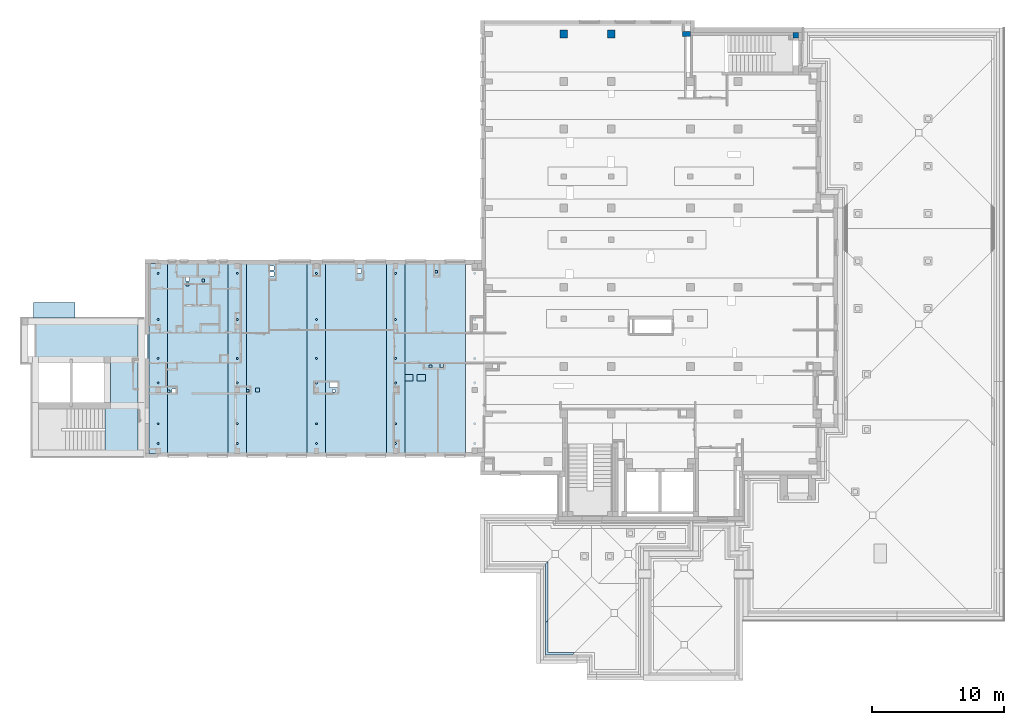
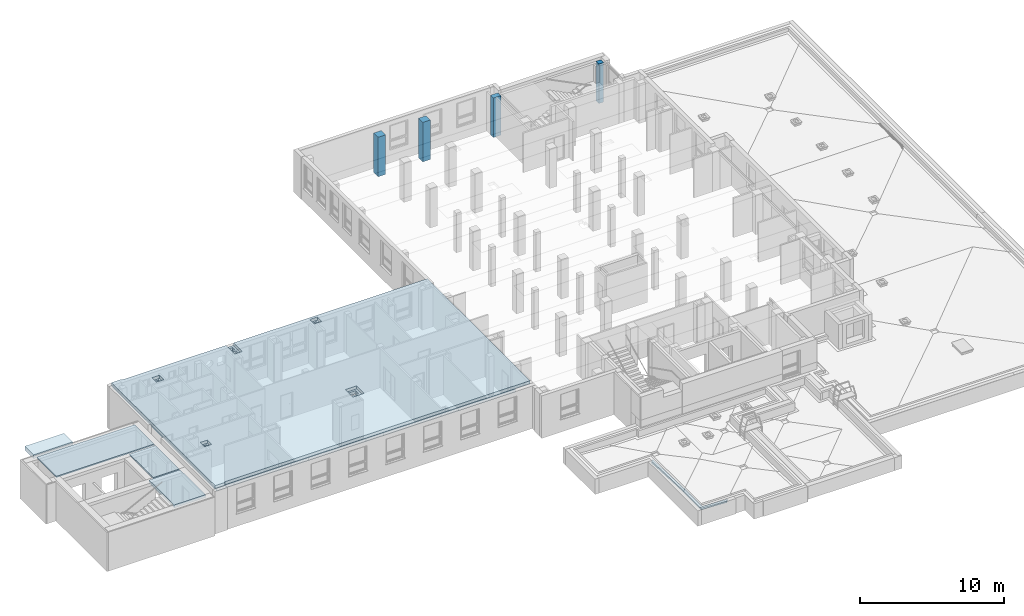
# One storey, part 2 of 50: 15 slabs, 4 columns, 44 openings, 1 element without a shape of its own.
"""IFC4 building model written with IfcOpenShell, lengths in metres."""

from ifc_helpers import new_model, entity, si_unit, converted_unit, derived_unit, frame, frame_2d, origin, origin_with_axes, origin_2d_with_axis, place, context, subcontext, project, spatial, polyline, rectangle, circle, outline, extrude, material, layer, layer_set, layer_usage, element, aggregate, save


model = new_model("IFC4")

# Units and contexts
model_context = context("Model", 3, precision=1e-05, world=origin())
body_context = subcontext(model_context, "Body", "Model", "MODEL_VIEW")
ifc_project = project(units=[si_unit("LENGTHUNIT", "METRE"), si_unit("AREAUNIT", "SQUARE_METRE"), si_unit("VOLUMEUNIT", "CUBIC_METRE"), si_unit("MASSUNIT", "GRAM", prefix="KILO"), converted_unit("PLANEANGLEUNIT", "DEGREE", entity("IfcPlaneAngleMeasure", 0.0174532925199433), si_unit("PLANEANGLEUNIT", "RADIAN"), dimensions=[0, 0, 0, 0, 0, 0, 0]), derived_unit("THERMALTRANSMITTANCEUNIT", [(si_unit("POWERUNIT", "WATT"), 1), (si_unit("THERMODYNAMICTEMPERATUREUNIT", "KELVIN"), -1), (si_unit("LENGTHUNIT", "METRE"), -2)]), derived_unit("VOLUMETRICFLOWRATEUNIT", [(si_unit("LENGTHUNIT", "METRE"), 3), (converted_unit("TIMEUNIT", "hour", entity("IfcTimeMeasure", 3600.0), si_unit("TIMEUNIT", "SECOND"), dimensions=[0, 0, 1, 0, 0, 0, 0]), -1), (si_unit("LENGTHUNIT", "METRE"), -1)])], contexts=[model_context])

# Site, building, storey
site_placement = place(None, origin())
site = spatial("IfcSite", under=ifc_project, at=site_placement, Name="3. ASŘ", CompositionType="ELEMENT")
building_placement = place(site_placement, origin())
building = spatial("IfcBuilding", under=site, at=building_placement, Name="Pavilon C", CompositionType="ELEMENT")
storey_placement = place(building_placement, frame((0.0, 0.0, 3.6)))
storey = spatial("IfcBuildingStorey", under=building, at=storey_placement, Name="Půdorys 2.NP", CompositionType="ELEMENT", Elevation=3.6)

# Columns
ifc_material_1 = material(Name="ZELEZOBETONOVÁ KCE")
column_1_placement = place(storey_placement, frame((31.05, 32.7, -0.1)))
element("IfcColumn", 1, at=column_1_placement, inside=storey, material=ifc_material_1, PredefinedType="COLUMN", context=body_context, shape_type="SweptSolid", body=[
    extrude(rectangle(XDim=0.6, YDim=0.6, at=frame_2d((-0.3, -0.3), x_axis=(-1.0, 0.0))), origin_with_axes(), (0.0, 0.0, 1.0), 3.35),
])
ifc_material_2 = material(Name="ZELEZOBETONOVÁ KCE")
column_2_placement = place(storey_placement, frame((34.65, 32.7, -0.1)))
element("IfcColumn", 2, at=column_2_placement, inside=storey, material=ifc_material_2, PredefinedType="COLUMN", context=body_context, shape_type="SweptSolid", body=[
    extrude(rectangle(XDim=0.6, YDim=0.6, at=frame_2d((-0.3, -0.3), x_axis=(-1.0, 0.0))), origin_with_axes(), (0.0, 0.0, 1.0), 3.35),
])
ifc_material_3 = material(Name="ZELEZOBETONOVÁ KCE")
column_3_placement = place(storey_placement, frame((40.35, 32.6, -0.1)))
element("IfcColumn", 3, at=column_3_placement, inside=storey, material=ifc_material_3, PredefinedType="COLUMN", context=body_context, shape_type="SweptSolid", body=[
    extrude(rectangle(XDim=0.599999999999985, YDim=0.4, at=frame_2d((-0.299999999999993, -0.2), x_axis=(-1.0, 0.0))), origin_with_axes(), (0.0, 0.0, 1.0), 3.35),
])
ifc_material_4 = material(Name="ZELEZOBETONOVÁ KCE")
column_4_placement = place(storey_placement, frame((48.55, 32.5, -0.1)))
element("IfcColumn", 4, at=column_4_placement, inside=storey, material=ifc_material_4, PredefinedType="COLUMN", context=body_context, shape_type="SweptSolid", body=[
    extrude(rectangle(XDim=0.4, YDim=0.4, at=frame_2d((-0.2, -0.2), x_axis=(-1.0, 0.0))), origin_with_axes(), (0.0, 0.0, 1.0), 3.35),
])

# Slab, openings
ifc_material_5 = material(Name="PZD")
slab_1_placement = place(storey_placement, frame((0.700000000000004, 0.600000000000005, 3.25)))
slab_1 = element("IfcSlab", 5, at=slab_1_placement, inside=storey, material=ifc_material_5, PredefinedType="FLOOR", context=body_context, shape_type="SweptSolid", body=[
    extrude(rectangle(XDim=14.4, YDim=4.60000000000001, at=frame_2d((2.3, -7.2), x_axis=(-1.01054966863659e-15, -1.0))), frame((1.45519152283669e-14, 14.4, 0.0), z_axis=(0.0, 0.0, 1.0), x_axis=(1.0, 0.0, 0.0)), (0.0, 0.0, 1.0), 0.25),
])
opening_1_placement = place(slab_1_placement, frame((1.37500000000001, 13.055, 0.0)))
element("IfcOpeningElement", 6, at=opening_1_placement, cuts=slab_1, Name="Prostup deskou", ObjectType="Opening", context=body_context, shape_type="SweptSolid", body=[
    extrude(rectangle(XDim=0.3, YDim=0.3, at=frame_2d((0.0, 0.0), x_axis=(0.0, -1.0))), frame((0.15, 0.15, 0.0), z_axis=(0.0, 0.0, 1.0), x_axis=(1.0, 0.0, 0.0)), (0.0, 0.0, 1.0), 0.25),
])
opening_2_placement = place(slab_1_placement, frame((0.350000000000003, 4.6, 0.0)))
element("IfcOpeningElement", 7, at=opening_2_placement, cuts=slab_1, Name="Prostup deskou", ObjectType="Opening", context=body_context, shape_type="SweptSolid", body=[
    extrude(rectangle(XDim=0.3, YDim=0.3, at=frame_2d((0.0, 9.09494701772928e-16), x_axis=(0.0, -1.0))), frame((0.15, 0.149999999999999, 0.0), z_axis=(0.0, 0.0, 1.0), x_axis=(1.0, 0.0, 0.0)), (0.0, 0.0, 1.0), 0.25),
])
opening_3_placement = place(slab_1_placement, frame((2.38742359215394e-15, 4.6, 0.0)))
element("IfcOpeningElement", 8, at=opening_3_placement, cuts=slab_1, Name="Prostup deskou", ObjectType="Opening", context=body_context, shape_type="SweptSolid", body=[
    extrude(rectangle(XDim=0.2, YDim=0.2, at=frame_2d((-1.13686837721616e-16, 9.09494701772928e-16), x_axis=(0.0, -1.0))), frame((0.1, 0.0999999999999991, 0.0), z_axis=(0.0, 0.0, 1.0), x_axis=(1.0, 0.0, 0.0)), (0.0, 0.0, 1.0), 0.25),
])
opening_4_placement = place(slab_1_placement, frame((2.62500000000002, 13.005, 0.0)))
element("IfcOpeningElement", 9, at=opening_4_placement, cuts=slab_1, Name="Prostup deskou", ObjectType="Opening", context=body_context, shape_type="SweptSolid", body=[
    extrude(rectangle(XDim=0.2, YDim=0.2, at=frame_2d((0.0, 0.0), x_axis=(0.0, -1.0))), frame((0.1, 0.1, 0.0), z_axis=(0.0, 0.0, 1.0), x_axis=(1.0, 0.0, 0.0)), (0.0, 0.0, 1.0), 0.25),
])
opening_5_placement = place(slab_1_placement, frame((1.42500000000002, 12.705, 0.0)))
element("IfcOpeningElement", 10, at=opening_5_placement, cuts=slab_1, Name="Prostup deskou", ObjectType="Opening", context=body_context, shape_type="SweptSolid", body=[
    extrude(rectangle(XDim=0.2, YDim=0.2, at=frame_2d((0.0, 0.0), x_axis=(0.0, -1.0))), frame((0.1, 0.1, 0.0), z_axis=(0.0, 0.0, 1.0), x_axis=(1.0, 0.0, 0.0)), (0.0, 0.0, 1.0), 0.25),
])

ifc_material_6 = material(Name="RZT")
slab_2_placement = place(storey_placement, frame((11.3, 0.600000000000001, 3.25)))
slab_2 = element("IfcSlab", 11, at=slab_2_placement, inside=storey, material=ifc_material_6, PredefinedType="FLOOR", context=body_context, shape_type="SweptSolid", body=[
    extrude(rectangle(XDim=1.4, YDim=14.4, at=frame_2d((0.700000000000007, 7.2), x_axis=(1.0, 0.0))), origin_with_axes(), (0.0, 0.0, 1.0), 0.25),
])
opening_6_placement = place(slab_2_placement, frame((0.62507717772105, 0.675077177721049, 0.0)))
element("IfcOpeningElement", 12, at=opening_6_placement, cuts=slab_2, Name="Prostup deskou", ObjectType="Opening", context=body_context, shape_type="SweptSolid", body=[
    extrude(circle(Radius=0.075, at=frame_2d((0.0, -4.54747350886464e-16), x_axis=(1.0, 0.0))), frame((0.0749228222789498, 0.0749228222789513, 0.0), z_axis=(0.0, 0.0, 1.0), x_axis=(1.0, 0.0, 0.0)), (0.0, 0.0, 1.0), 0.25),
])
opening_7_placement = place(slab_2_placement, frame((0.62507717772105, 2.17507717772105, 0.0)))
element("IfcOpeningElement", 13, at=opening_7_placement, cuts=slab_2, Name="Prostup deskou", ObjectType="Opening", context=body_context, shape_type="SweptSolid", body=[
    extrude(circle(Radius=0.0749999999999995, at=origin_2d_with_axis()), frame((0.0749228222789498, 0.0749228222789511, 0.0), z_axis=(0.0, 0.0, 1.0), x_axis=(1.0, 0.0, 0.0)), (0.0, 0.0, 1.0), 0.25),
])
opening_8_placement = place(slab_2_placement, frame((0.625077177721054, 10.0750771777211, 0.0)))
element("IfcOpeningElement", 14, at=opening_8_placement, cuts=slab_2, Name="Prostup deskou", ObjectType="Opening", context=body_context, shape_type="SweptSolid", body=[
    extrude(circle(Radius=0.0750000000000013, at=frame_2d((3.63797880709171e-15, -1.81898940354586e-15), x_axis=(1.0, 0.0))), frame((0.0749228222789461, 0.0749228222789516, 0.0), z_axis=(0.0, 0.0, 1.0), x_axis=(1.0, 0.0, 0.0)), (0.0, 0.0, 1.0), 0.25),
])
opening_9_placement = place(slab_2_placement, frame((0.625077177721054, 13.575077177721, 0.0)))
element("IfcOpeningElement", 15, at=opening_9_placement, cuts=slab_2, Name="Prostup deskou", ObjectType="Opening", context=body_context, shape_type="SweptSolid", body=[
    extrude(circle(Radius=0.0750000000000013, at=frame_2d((5.45696821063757e-15, 5.45696821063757e-15), x_axis=(1.0, 0.0))), frame((0.0749228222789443, 0.0749228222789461, 0.0), z_axis=(0.0, 0.0, 1.0), x_axis=(1.0, 0.0, 0.0)), (0.0, 0.0, 1.0), 0.25),
])
opening_10_placement = place(slab_2_placement, frame((0.62507717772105, 5.27507717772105, 0.0)))
element("IfcOpeningElement", 16, at=opening_10_placement, cuts=slab_2, Name="Prostup deskou", ObjectType="Opening", context=body_context, shape_type="SweptSolid", body=[
    extrude(circle(Radius=0.0750000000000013, at=frame_2d((0.0, 4.54747350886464e-15), x_axis=(1.0, 0.0))), frame((0.0749228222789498, 0.0749228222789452, 0.0), z_axis=(0.0, 0.0, 1.0), x_axis=(1.0, 0.0, 0.0)), (0.0, 0.0, 1.0), 0.25),
])
opening_11_placement = place(slab_2_placement, frame((0.62507717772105, 7.12507717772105, 0.0)))
element("IfcOpeningElement", 17, at=opening_11_placement, cuts=slab_2, Name="Prostup deskou", ObjectType="Opening", context=body_context, shape_type="SweptSolid", body=[
    extrude(circle(Radius=0.0750000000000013, at=origin_2d_with_axis()), frame((0.0749228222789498, 0.0749228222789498, 0.0), z_axis=(0.0, 0.0, 1.0), x_axis=(1.0, 0.0, 0.0)), (0.0, 0.0, 1.0), 0.25),
])

ifc_material_7 = material(Name="RZT")
slab_3_placement = place(storey_placement, frame((-0.699999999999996, 0.600000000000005, 3.25)))
slab_3 = element("IfcSlab", 18, at=slab_3_placement, inside=storey, material=ifc_material_7, PredefinedType="FLOOR", context=body_context, shape_type="SweptSolid", body=[
    extrude(rectangle(XDim=1.4, YDim=14.4, at=frame_2d((0.700000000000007, 7.2), x_axis=(1.0, 0.0))), origin_with_axes(), (0.0, 0.0, 1.0), 0.25),
])
opening_12_placement = place(slab_3_placement, frame((0.62507717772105, 7.12507717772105, 0.0)))
element("IfcOpeningElement", 19, at=opening_12_placement, cuts=slab_3, Name="Prostup deskou", ObjectType="Opening", context=body_context, shape_type="SweptSolid", body=[
    extrude(circle(Radius=0.0750000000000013, at=frame_2d((0.0, -9.09494701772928e-16), x_axis=(1.0, 0.0))), frame((0.0749228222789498, 0.0749228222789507, 0.0), z_axis=(0.0, 0.0, 1.0), x_axis=(1.0, 0.0, 0.0)), (0.0, 0.0, 1.0), 0.25),
])
opening_13_placement = place(slab_3_placement, frame((0.62507717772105, 5.27507717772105, 0.0)))
element("IfcOpeningElement", 20, at=opening_13_placement, cuts=slab_3, Name="Prostup deskou", ObjectType="Opening", context=body_context, shape_type="SweptSolid", body=[
    extrude(circle(Radius=0.0750000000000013, at=frame_2d((0.0, -2.72848410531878e-15), x_axis=(1.0, 0.0))), frame((0.0749228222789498, 0.0749228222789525, 0.0), z_axis=(0.0, 0.0, 1.0), x_axis=(1.0, 0.0, 0.0)), (0.0, 0.0, 1.0), 0.25),
])
opening_14_placement = place(slab_3_placement, frame((0.625077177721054, 13.575077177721, 0.0)))
element("IfcOpeningElement", 21, at=opening_14_placement, cuts=slab_3, Name="Prostup deskou", ObjectType="Opening", context=body_context, shape_type="SweptSolid", body=[
    extrude(circle(Radius=0.0750000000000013, at=frame_2d((0.0, 5.45696821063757e-15), x_axis=(1.0, 0.0))), frame((0.0749228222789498, 0.0749228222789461, 0.0), z_axis=(0.0, 0.0, 1.0), x_axis=(1.0, 0.0, 0.0)), (0.0, 0.0, 1.0), 0.25),
])
opening_15_placement = place(slab_3_placement, frame((0.625077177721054, 10.0750771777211, 0.0)))
element("IfcOpeningElement", 22, at=opening_15_placement, cuts=slab_3, Name="Prostup deskou", ObjectType="Opening", context=body_context, shape_type="SweptSolid", body=[
    extrude(circle(Radius=0.0750000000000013, at=origin_2d_with_axis()), frame((0.0749228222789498, 0.0749228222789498, 0.0), z_axis=(0.0, 0.0, 1.0), x_axis=(1.0, 0.0, 0.0)), (0.0, 0.0, 1.0), 0.25),
])
opening_16_placement = place(slab_3_placement, frame((0.62507717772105, 2.17507717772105, 0.0)))
element("IfcOpeningElement", 23, at=opening_16_placement, cuts=slab_3, Name="Prostup deskou", ObjectType="Opening", context=body_context, shape_type="SweptSolid", body=[
    extrude(circle(Radius=0.0749999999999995, at=frame_2d((0.0, 9.09494701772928e-16), x_axis=(1.0, 0.0))), frame((0.0749228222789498, 0.0749228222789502, 0.0), z_axis=(0.0, 0.0, 1.0), x_axis=(1.0, 0.0, 0.0)), (0.0, 0.0, 1.0), 0.25),
])
opening_17_placement = place(slab_3_placement, frame((0.62507717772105, 0.675077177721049, 0.0)))
element("IfcOpeningElement", 24, at=opening_17_placement, cuts=slab_3, Name="Prostup deskou", ObjectType="Opening", context=body_context, shape_type="SweptSolid", body=[
    extrude(circle(Radius=0.075, at=frame_2d((0.0, 4.54747350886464e-16), x_axis=(1.0, 0.0))), frame((0.0749228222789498, 0.0749228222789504, 0.0), z_axis=(0.0, 0.0, 1.0), x_axis=(1.0, 0.0, 0.0)), (0.0, 0.0, 1.0), 0.25),
])

ifc_material_8 = material(Name="RZT")
slab_4_placement = place(storey_placement, frame((5.30000000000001, 0.600000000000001, 3.25)))
slab_4 = element("IfcSlab", 25, at=slab_4_placement, inside=storey, material=ifc_material_8, PredefinedType="FLOOR", context=body_context, shape_type="SweptSolid", body=[
    extrude(rectangle(XDim=1.4, YDim=14.4, at=frame_2d((0.700000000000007, 7.2), x_axis=(1.0, -2.59855629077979e-15))), frame((0.0, 3.63797880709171e-15, 0.0), z_axis=(0.0, 0.0, 1.0), x_axis=(1.0, 0.0, 0.0)), (0.0, 0.0, 1.0), 0.25),
])
opening_18_placement = place(slab_4_placement, frame((0.625077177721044, 0.675077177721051, 0.0)))
element("IfcOpeningElement", 26, at=opening_18_placement, cuts=slab_4, Name="Prostup deskou", ObjectType="Opening", context=body_context, shape_type="SweptSolid", body=[
    extrude(circle(Radius=0.075, at=frame_2d((-4.54747350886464e-15, 0.0), x_axis=(1.0, 0.0))), frame((0.0749228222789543, 0.0749228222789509, 0.0), z_axis=(0.0, 0.0, 1.0), x_axis=(1.0, 0.0, 0.0)), (0.0, 0.0, 1.0), 0.25),
])
opening_19_placement = place(slab_4_placement, frame((0.625077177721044, 2.17507717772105, 0.0)))
element("IfcOpeningElement", 27, at=opening_19_placement, cuts=slab_4, Name="Prostup deskou", ObjectType="Opening", context=body_context, shape_type="SweptSolid", body=[
    extrude(circle(Radius=0.0749999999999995, at=frame_2d((-4.54747350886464e-15, 0.0), x_axis=(1.0, 0.0))), frame((0.0749228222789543, 0.0749228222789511, 0.0), z_axis=(0.0, 0.0, 1.0), x_axis=(1.0, 0.0, 0.0)), (0.0, 0.0, 1.0), 0.25),
])
opening_20_placement = place(slab_4_placement, frame((0.625077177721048, 10.0750771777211, 0.0)))
element("IfcOpeningElement", 28, at=opening_20_placement, cuts=slab_4, Name="Prostup deskou", ObjectType="Opening", context=body_context, shape_type="SweptSolid", body=[
    extrude(circle(Radius=0.0750000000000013, at=frame_2d((-3.63797880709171e-15, 0.0), x_axis=(1.0, 0.0))), frame((0.0749228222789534, 0.0749228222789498, 0.0), z_axis=(0.0, 0.0, 1.0), x_axis=(1.0, 0.0, 0.0)), (0.0, 0.0, 1.0), 0.25),
])
opening_21_placement = place(slab_4_placement, frame((0.625077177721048, 13.575077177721, 0.0)))
element("IfcOpeningElement", 29, at=opening_21_placement, cuts=slab_4, Name="Prostup deskou", ObjectType="Opening", context=body_context, shape_type="SweptSolid", body=[
    extrude(circle(Radius=0.0750000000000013, at=frame_2d((-4.54747350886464e-15, 3.63797880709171e-15), x_axis=(1.0, 0.0))), frame((0.0749228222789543, 0.0749228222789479, 0.0), z_axis=(0.0, 0.0, 1.0), x_axis=(1.0, 0.0, 0.0)), (0.0, 0.0, 1.0), 0.25),
])
opening_22_placement = place(slab_4_placement, frame((0.625077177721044, 5.27507717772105, 0.0)))
element("IfcOpeningElement", 30, at=opening_22_placement, cuts=slab_4, Name="Prostup deskou", ObjectType="Opening", context=body_context, shape_type="SweptSolid", body=[
    extrude(circle(Radius=0.0750000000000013, at=frame_2d((-4.54747350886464e-15, 3.63797880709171e-15), x_axis=(1.0, 0.0))), frame((0.0749228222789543, 0.0749228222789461, 0.0), z_axis=(0.0, 0.0, 1.0), x_axis=(1.0, 0.0, 0.0)), (0.0, 0.0, 1.0), 0.25),
])
opening_23_placement = place(slab_4_placement, frame((0.625077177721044, 7.12507717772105, 0.0)))
element("IfcOpeningElement", 31, at=opening_23_placement, cuts=slab_4, Name="Prostup deskou", ObjectType="Opening", context=body_context, shape_type="SweptSolid", body=[
    extrude(circle(Radius=0.0750000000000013, at=frame_2d((-4.54747350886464e-15, 0.0), x_axis=(1.0, 0.0))), frame((0.0749228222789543, 0.0749228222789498, 0.0), z_axis=(0.0, 0.0, 1.0), x_axis=(1.0, 0.0, 0.0)), (0.0, 0.0, 1.0), 0.25),
])

# Slab, opening
ifc_material_9 = material(Name="PZD")
slab_5_placement = place(storey_placement, frame((-9.37499999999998, 7.80000000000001, 3.08)))
slab_5 = element("IfcSlab", 32, at=slab_5_placement, inside=storey, material=ifc_material_9, PredefinedType="FLOOR", context=body_context, shape_type="SweptSolid", body=[
    extrude(rectangle(XDim=2.7, YDim=7.84999999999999, at=frame_2d((3.925, -1.35), x_axis=(0.0, -1.0))), frame((0.0, 2.7, 0.0), z_axis=(0.0, 0.0, 1.0), x_axis=(1.0, 0.0, 0.0)), (0.0, 0.0, 1.0), 0.1),
])
opening_24_placement = place(slab_5_placement, frame((7.49999999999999, 2.35, 0.3)))
element("IfcOpeningElement", 33, at=opening_24_placement, cuts=slab_5, Name="Prostup deskou", ObjectType="Opening", context=body_context, shape_type="SweptSolid", body=[
    extrude(rectangle(XDim=0.2, YDim=0.35, at=frame_2d((0.0, 1.81898940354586e-15), x_axis=(0.0, -1.0))), frame((0.175, 0.0999999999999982, 0.0), z_axis=(0.0, 0.0, 1.0), x_axis=(1.0, 0.0, 0.0)), (0.0, 0.0, 1.0), 0.1),
])

# Slab, openings
ifc_material_10 = material(Name="PZD")
slab_6_placement = place(storey_placement, frame((-3.62499999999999, 4.3, 3.08)))
slab_6 = element("IfcSlab", 34, at=slab_6_placement, inside=storey, material=ifc_material_10, PredefinedType="FLOOR", context=body_context, shape_type="SweptSolid", body=[
    extrude(rectangle(XDim=2.1, YDim=3.3, at=frame_2d((1.05, 1.65), x_axis=(1.0, 0.0))), origin_with_axes(), (0.0, 0.0, 1.0), 0.1),
])
opening_25_placement = place(slab_6_placement, frame((2.0, 0.15, 0.3)))
element("IfcOpeningElement", 35, at=opening_25_placement, cuts=slab_6, Name="Prostup deskou", ObjectType="Opening", context=body_context, shape_type="SweptSolid", body=[
    extrude(rectangle(XDim=0.1, YDim=0.1, at=frame_2d((0.0, 0.0), x_axis=(0.0, -1.0))), frame((0.05, 0.05, 0.0), z_axis=(0.0, 0.0, 1.0), x_axis=(1.0, 0.0, 0.0)), (0.0, 0.0, 1.0), 0.1),
])
opening_26_placement = place(slab_6_placement, frame((1.8, 1.55, 0.3)))
element("IfcOpeningElement", 36, at=opening_26_placement, cuts=slab_6, Name="Prostup deskou", ObjectType="Opening", context=body_context, shape_type="SweptSolid", body=[
    extrude(rectangle(XDim=0.9, YDim=0.3, at=frame_2d((0.0, -9.09494701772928e-16), x_axis=(0.0, -1.0))), frame((0.15, 0.450000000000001, 0.0), z_axis=(0.0, 0.0, 1.0), x_axis=(1.0, 0.0, 0.0)), (0.0, 0.0, 1.0), 0.1),
])

# Slab
ifc_material_11 = material(Name="PZD")
slab_7_placement = place(storey_placement, frame((-4.0249, 0.700000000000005, 2.93)))
element("IfcSlab", 37, at=slab_7_placement, inside=storey, material=ifc_material_11, PredefinedType="FLOOR", context=body_context, shape_type="SweptSolid", body=[
    extrude(rectangle(XDim=2.4999, YDim=3.5, at=frame_2d((1.24995, 1.75), x_axis=(1.0, 0.0))), origin_with_axes(), (0.0, 0.0, 1.0), 0.25),
])

# Slab, openings
ifc_material_12 = material(Name="RZT")
slab_8_placement = place(storey_placement, frame((17.3, 0.600000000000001, 3.25)))
slab_8 = element("IfcSlab", 38, at=slab_8_placement, inside=storey, material=ifc_material_12, PredefinedType="FLOOR", context=body_context, shape_type="SweptSolid", body=[
    extrude(rectangle(XDim=1.4, YDim=14.4, at=frame_2d((0.700000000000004, 7.2), x_axis=(1.0, 0.0))), origin_with_axes(), (0.0, 0.0, 1.0), 0.25),
])
opening_27_placement = place(slab_8_placement, frame((0.62507717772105, 7.12507717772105, 0.0)))
element("IfcOpeningElement", 39, at=opening_27_placement, cuts=slab_8, Name="Prostup deskou", ObjectType="Opening", context=body_context, shape_type="SweptSolid", body=[
    extrude(circle(Radius=0.0750000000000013, at=origin_2d_with_axis()), frame((0.0749228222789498, 0.0749228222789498, 0.0), z_axis=(0.0, 0.0, 1.0), x_axis=(1.0, 0.0, 0.0)), (0.0, 0.0, 1.0), 0.25),
])
opening_28_placement = place(slab_8_placement, frame((0.62507717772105, 5.27507717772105, 0.0)))
element("IfcOpeningElement", 40, at=opening_28_placement, cuts=slab_8, Name="Prostup deskou", ObjectType="Opening", context=body_context, shape_type="SweptSolid", body=[
    extrude(circle(Radius=0.0750000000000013, at=frame_2d((0.0, 4.54747350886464e-15), x_axis=(1.0, 0.0))), frame((0.0749228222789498, 0.0749228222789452, 0.0), z_axis=(0.0, 0.0, 1.0), x_axis=(1.0, 0.0, 0.0)), (0.0, 0.0, 1.0), 0.25),
])
opening_29_placement = place(slab_8_placement, frame((0.625077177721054, 13.575077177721, 0.0)))
element("IfcOpeningElement", 41, at=opening_29_placement, cuts=slab_8, Name="Prostup deskou", ObjectType="Opening", context=body_context, shape_type="SweptSolid", body=[
    extrude(circle(Radius=0.0750000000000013, at=frame_2d((3.63797880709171e-15, 5.45696821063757e-15), x_axis=(1.0, 0.0))), frame((0.0749228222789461, 0.0749228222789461, 0.0), z_axis=(0.0, 0.0, 1.0), x_axis=(1.0, 0.0, 0.0)), (0.0, 0.0, 1.0), 0.25),
])
opening_30_placement = place(slab_8_placement, frame((0.625077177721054, 10.0750771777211, 0.0)))
element("IfcOpeningElement", 42, at=opening_30_placement, cuts=slab_8, Name="Prostup deskou", ObjectType="Opening", context=body_context, shape_type="SweptSolid", body=[
    extrude(circle(Radius=0.0750000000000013, at=frame_2d((3.63797880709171e-15, -1.81898940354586e-15), x_axis=(1.0, 0.0))), frame((0.0749228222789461, 0.0749228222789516, 0.0), z_axis=(0.0, 0.0, 1.0), x_axis=(1.0, 0.0, 0.0)), (0.0, 0.0, 1.0), 0.25),
])
opening_31_placement = place(slab_8_placement, frame((0.62507717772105, 2.17507717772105, 0.0)))
element("IfcOpeningElement", 43, at=opening_31_placement, cuts=slab_8, Name="Prostup deskou", ObjectType="Opening", context=body_context, shape_type="SweptSolid", body=[
    extrude(circle(Radius=0.0749999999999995, at=frame_2d((0.0, -4.54747350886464e-16), x_axis=(1.0, 0.0))), frame((0.0749228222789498, 0.0749228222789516, 0.0), z_axis=(0.0, 0.0, 1.0), x_axis=(1.0, 0.0, 0.0)), (0.0, 0.0, 1.0), 0.25),
])
opening_32_placement = place(slab_8_placement, frame((0.62507717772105, 0.675077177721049, 0.0)))
element("IfcOpeningElement", 44, at=opening_32_placement, cuts=slab_8, Name="Prostup deskou", ObjectType="Opening", context=body_context, shape_type="SweptSolid", body=[
    extrude(circle(Radius=0.075, at=frame_2d((0.0, -2.27373675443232e-16), x_axis=(1.0, 0.0))), frame((0.0749228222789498, 0.0749228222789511, 0.0), z_axis=(0.0, 0.0, 1.0), x_axis=(1.0, 0.0, 0.0)), (0.0, 0.0, 1.0), 0.25),
])

ifc_material_13 = material(Name="PZD")
slab_9_placement = place(storey_placement, frame((18.7, 0.600000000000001, 3.25)))
slab_9 = element("IfcSlab", 45, at=slab_9_placement, inside=storey, material=ifc_material_13, PredefinedType="FLOOR", context=body_context, shape_type="SweptSolid", body=[
    extrude(rectangle(XDim=14.4, YDim=4.60000000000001, at=frame_2d((2.3, -7.2), x_axis=(-5.05274834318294e-16, -1.0))), frame((7.27595761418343e-15, 14.4, 0.0), z_axis=(0.0, 0.0, 1.0), x_axis=(1.0, 0.0, 0.0)), (0.0, 0.0, 1.0), 0.25),
])
opening_33_placement = place(slab_9_placement, frame((1.85000000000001, 6.5, 0.0)))
element("IfcOpeningElement", 46, at=opening_33_placement, cuts=slab_9, Name="Prostup deskou", ObjectType="Opening", context=body_context, shape_type="SweptSolid", body=[
    extrude(rectangle(XDim=0.2, YDim=0.2, at=frame_2d((-3.63797880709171e-15, 9.09494701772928e-16), x_axis=(0.0, -1.0))), frame((0.100000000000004, 0.0999999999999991, 0.0), z_axis=(0.0, 0.0, 1.0), x_axis=(1.0, 0.0, 0.0)), (0.0, 0.0, 1.0), 0.25),
])
opening_34_placement = place(slab_9_placement, frame((2.65000000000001, 6.5, 0.0)))
element("IfcOpeningElement", 47, at=opening_34_placement, cuts=slab_9, Name="Prostup deskou", ObjectType="Opening", context=body_context, shape_type="SweptSolid", body=[
    extrude(rectangle(XDim=0.3, YDim=0.3, at=frame_2d((-3.63797880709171e-15, 9.09494701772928e-16), x_axis=(0.0, -1.0))), frame((0.150000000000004, 0.149999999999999, 0.0), z_axis=(0.0, 0.0, 1.0), x_axis=(1.0, 0.0, 0.0)), (0.0, 0.0, 1.0), 0.25),
])
opening_35_placement = place(slab_9_placement, frame((2.275, 13.68, 0.0)))
element("IfcOpeningElement", 48, at=opening_35_placement, cuts=slab_9, Name="Prostup deskou", ObjectType="Opening", context=body_context, shape_type="SweptSolid", body=[
    extrude(rectangle(XDim=0.2, YDim=0.2, at=frame_2d((0.0, -3.63797880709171e-15), x_axis=(0.0, -1.0))), frame((0.1, 0.100000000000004, 0.0), z_axis=(0.0, 0.0, 1.0), x_axis=(1.0, 0.0, 0.0)), (0.0, 0.0, 1.0), 0.25),
])
opening_36_placement = place(slab_9_placement, frame((3.63797880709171e-15, 5.5, 0.0)))
element("IfcOpeningElement", 49, at=opening_36_placement, cuts=slab_9, Name="Prostup deskou", ObjectType="Opening", context=body_context, shape_type="SweptSolid", body=[
    extrude(rectangle(XDim=0.5, YDim=0.63, at=frame_2d((0.0, 0.0), x_axis=(0.0, -1.0))), frame((0.315, 0.25, 0.0), z_axis=(0.0, 0.0, 1.0), x_axis=(1.0, 0.0, 0.0)), (0.0, 0.0, 1.0), 0.25),
])
opening_37_placement = place(slab_9_placement, frame((0.930000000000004, 5.5, 0.0)))
element("IfcOpeningElement", 50, at=opening_37_placement, cuts=slab_9, Name="Prostup deskou", ObjectType="Opening", context=body_context, shape_type="SweptSolid", body=[
    extrude(rectangle(XDim=0.5, YDim=0.63, at=frame_2d((0.0, 0.0), x_axis=(0.0, -1.0))), frame((0.315, 0.25, 0.0), z_axis=(0.0, 0.0, 1.0), x_axis=(1.0, 0.0, 0.0)), (0.0, 0.0, 1.0), 0.25),
])

ifc_material_14 = material(Name="PZD")
slab_10_placement = place(storey_placement, frame((6.70000000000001, 0.600000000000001, 3.25)))
slab_10 = element("IfcSlab", 51, at=slab_10_placement, inside=storey, material=ifc_material_14, PredefinedType="FLOOR", context=body_context, shape_type="SweptSolid", body=[
    extrude(rectangle(XDim=14.4, YDim=4.60000000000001, at=frame_2d((2.3, -7.2), x_axis=(-1.01054966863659e-15, -1.0))), frame((1.45519152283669e-14, 14.4, 0.0), z_axis=(0.0, 0.0, 1.0), x_axis=(1.0, 0.0, 0.0)), (0.0, 0.0, 1.0), 0.25),
])
opening_38_placement = place(slab_10_placement, frame((1.795, 13.9, 0.0)))
element("IfcOpeningElement", 52, at=opening_38_placement, cuts=slab_10, Name="Prostup deskou", ObjectType="Opening", context=body_context, shape_type="SweptSolid", body=[
    extrude(rectangle(XDim=0.3, YDim=0.3, at=frame_2d((-1.81898940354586e-15, 0.0), x_axis=(0.0, -1.0))), frame((0.150000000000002, 0.15, 0.0), z_axis=(0.0, 0.0, 1.0), x_axis=(1.0, 0.0, 0.0)), (0.0, 0.0, 1.0), 0.25),
])
opening_39_placement = place(slab_10_placement, frame((1.795, 13.45, 0.0)))
element("IfcOpeningElement", 53, at=opening_39_placement, cuts=slab_10, Name="Prostup deskou", ObjectType="Opening", context=body_context, shape_type="SweptSolid", body=[
    extrude(rectangle(XDim=0.3, YDim=0.3, at=frame_2d((-1.81898940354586e-15, 0.0), x_axis=(0.0, -1.0))), frame((0.150000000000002, 0.15, 0.0), z_axis=(0.0, 0.0, 1.0), x_axis=(1.0, 0.0, 0.0)), (0.0, 0.0, 1.0), 0.25),
])
opening_40_placement = place(slab_10_placement, frame((2.18278728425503e-14, 4.65, 0.0)))
element("IfcOpeningElement", 54, at=opening_40_placement, cuts=slab_10, Name="Prostup deskou", ObjectType="Opening", context=body_context, shape_type="SweptSolid", body=[
    extrude(rectangle(XDim=0.2, YDim=0.2, at=frame_2d((1.81898940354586e-15, 0.0), x_axis=(0.0, -1.0))), frame((0.0999999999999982, 0.1, 0.0), z_axis=(0.0, 0.0, 1.0), x_axis=(1.0, 0.0, 0.0)), (0.0, 0.0, 1.0), 0.25),
])
opening_41_placement = place(slab_10_placement, frame((0.670000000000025, 4.65, 0.0)))
element("IfcOpeningElement", 55, at=opening_41_placement, cuts=slab_10, Name="Prostup deskou", ObjectType="Opening", context=body_context, shape_type="SweptSolid", body=[
    extrude(rectangle(XDim=0.3, YDim=0.3, at=frame_2d((0.0, 0.0), x_axis=(0.0, -1.0))), frame((0.15, 0.15, 0.0), z_axis=(0.0, 0.0, 1.0), x_axis=(1.0, 0.0, 0.0)), (0.0, 0.0, 1.0), 0.25),
])

ifc_material_15 = material(Name="PZD")
slab_11_placement = place(storey_placement, frame((12.7, 0.600000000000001, 3.25)))
slab_11 = element("IfcSlab", 56, at=slab_11_placement, inside=storey, material=ifc_material_15, PredefinedType="FLOOR", context=body_context, shape_type="SweptSolid", body=[
    extrude(rectangle(XDim=14.4, YDim=4.60000000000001, at=frame_2d((2.3, -7.2), x_axis=(-1.01054966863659e-15, -1.0))), frame((1.45519152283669e-14, 14.4, 0.0), z_axis=(0.0, 0.0, 1.0), x_axis=(1.0, 0.0, 0.0)), (0.0, 0.0, 1.0), 0.25),
])
opening_42_placement = place(slab_11_placement, frame((0.300000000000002, 5.0, 0.0)))
element("IfcOpeningElement", 57, at=opening_42_placement, cuts=slab_11, Name="Prostup deskou", ObjectType="Opening", context=body_context, shape_type="SweptSolid", body=[
    extrude(rectangle(XDim=0.4, YDim=0.6, at=frame_2d((1.81898940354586e-15, 9.09494701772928e-16), x_axis=(0.0, -1.0))), frame((0.299999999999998, 0.199999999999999, 0.0), z_axis=(0.0, 0.0, 1.0), x_axis=(1.0, 0.0, 0.0)), (0.0, 0.0, 1.0), 0.25),
])
opening_43_placement = place(slab_11_placement, frame((0.500000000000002, 4.65, 0.0)))
element("IfcOpeningElement", 58, at=opening_43_placement, cuts=slab_11, Name="Prostup deskou", ObjectType="Opening", context=body_context, shape_type="SweptSolid", body=[
    extrude(rectangle(XDim=0.2, YDim=0.2, at=frame_2d((1.81898940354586e-15, 9.09494701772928e-16), x_axis=(0.0, -1.0))), frame((0.0999999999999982, 0.0999999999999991, 0.0), z_axis=(0.0, 0.0, 1.0), x_axis=(1.0, 0.0, 0.0)), (0.0, 0.0, 1.0), 0.25),
])
opening_44_placement = place(slab_11_placement, frame((2.40000000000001, 13.68, 0.0)))
element("IfcOpeningElement", 59, at=opening_44_placement, cuts=slab_11, Name="Prostup deskou", ObjectType="Opening", context=body_context, shape_type="SweptSolid", body=[
    extrude(rectangle(XDim=0.3, YDim=0.3, at=frame_2d((-1.81898940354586e-15, -3.63797880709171e-15), x_axis=(0.0, -1.0))), frame((0.150000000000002, 0.150000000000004, 0.0), z_axis=(0.0, 0.0, 1.0), x_axis=(1.0, 0.0, 0.0)), (0.0, 0.0, 1.0), 0.25),
])

# Slab
ifc_material_16 = material(Name="ZELEZOBETONOVÁ KCE")
slab_12_placement = place(storey_placement, frame((-9.44999999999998, 10.85, 2.85)))
element("IfcSlab", 60, at=slab_12_placement, inside=storey, material=ifc_material_16, PredefinedType="FLOOR", context=body_context, shape_type="SweptSolid", body=[
    extrude(rectangle(XDim=3.15, YDim=1.21, at=frame_2d((1.575, 0.605), x_axis=(1.0, 0.0))), origin_with_axes(), (0.0, 0.0, 1.0), 0.33),
])

# Roof, slabs
roof_placement = place(storey_placement, frame((0.0, 0.0, -3.6)))
roof = element("IfcRoof", 61, at=roof_placement, inside=storey, PredefinedType="NOTDEFINED")
ifc_material_17 = material(Name="ASFALTOVÁ HYDROIZOLACE")
ifc_layer_1 = layer(ifc_material_17, 0.01)
ifc_material_18 = material(Name="II.S2 - KAČÍREK")
ifc_layer_2 = layer(ifc_material_18, 0.12)
ifc_layer_set_1 = layer_set([ifc_layer_1, ifc_layer_2])
ifc_layer_usage_1 = layer_usage(ifc_layer_set_1, "AXIS3", "POSITIVE", 0.0)
slab_13_placement = place(roof_placement, frame((29.36, -14.685, 3.90338825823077)))
slab_13 = element("IfcSlab", 62, at=slab_13_placement, material=ifc_layer_usage_1, PredefinedType="ROOF", context=body_context, shape_type="SweptSolid", body=[
    extrude(outline(polyline([(-1.72587691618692, -0.577515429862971), (-1.52587691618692, -0.777789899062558), (0.912938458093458, -0.777789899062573), (0.912938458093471, 1.25516809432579), (0.712938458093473, 1.45544256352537), (0.71293845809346, -0.577515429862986), (-1.72587691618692, -0.577515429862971)])), frame((0.776723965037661, 0.912938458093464, 0.0761719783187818), z_axis=(0.0523359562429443, 3.14985034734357e-16, 0.998629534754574), x_axis=(6.01852067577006e-15, -1.0, 0.0)), (0.0, -0.0523359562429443, 0.998629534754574), 0.130178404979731),
])
ifc_material_19 = material(Name="ASFALTOVÁ HYDROIZOLACE")
ifc_layer_3 = layer(ifc_material_19, 0.01)
ifc_material_20 = material(Name="II.S2 - KAČÍREK")
ifc_layer_4 = layer(ifc_material_20, 0.12)
ifc_layer_set_2 = layer_set([ifc_layer_3, ifc_layer_4])
ifc_layer_usage_2 = layer_usage(ifc_layer_set_2, "AXIS3", "POSITIVE", 0.0)
slab_14_placement = place(roof_placement, frame((29.3471973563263, -12.2461846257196, 3.77624631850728)))
slab_14 = element("IfcSlab", 63, at=slab_14_placement, material=ifc_layer_usage_2, PredefinedType="ROOF", context=body_context, shape_type="SweptSolid", body=[
    extrude(outline(polyline([(-0.108535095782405, 1.38729611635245), (-0.0957324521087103, 1.38729611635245), (-0.095732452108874, -3.07500393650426), (0.104267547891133, -2.87472946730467), (0.104267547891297, 1.58757058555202), (0.0914649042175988, 1.58757058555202), (-0.108535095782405, 1.38729611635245)])), frame((0.108535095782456, 3.07078975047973, 0.0830870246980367), z_axis=(-1.91541903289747e-15, 0.0523359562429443, 0.998629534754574), x_axis=(1.0, 3.659852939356e-14, 0.0)), (0.0, -0.0523359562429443, 0.998629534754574), 0.130178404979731),
])
aggregate(roof, [slab_13, slab_14])

# Slab
ifc_material_21 = material(Name="PIR")
slab_15_placement = place(storey_placement, frame((-0.799999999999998, 0.600000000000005, 3.5)))
element("IfcSlab", 64, at=slab_15_placement, inside=storey, material=ifc_material_21, PredefinedType="FLOOR", context=body_context, shape_type="SweptSolid", body=[
    extrude(outline(polyline([(0.800000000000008, 14.33), (0.800000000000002, 14.4), (2.72848410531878e-15, 14.4), (0.0, 0.0), (0.800000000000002, 0.0), (0.800000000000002, 0.0699999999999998), (25.3, 0.0699999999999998), (25.3, 14.33), (9.74500000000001, 14.33), (9.74500000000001, 13.13), (9.14500000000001, 13.13), (9.14500000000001, 14.33), (0.800000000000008, 14.33)]), holes=[polyline([(14.55, 5.55), (14.55, 4.5), (13.65, 4.5), (13.65, 5.55), (14.55, 5.55)]), polyline([(2.30000000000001, 5.05), (2.30000000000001, 4.45), (1.7, 4.45), (1.7, 5.05), (2.30000000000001, 5.05)]), polyline([(15.75, 13.53), (15.75, 14.13), (16.35, 14.13), (16.35, 13.53), (15.75, 13.53)]), polyline([(3.32500000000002, 13.505), (3.32500000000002, 12.905), (2.72500000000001, 12.905), (2.72500000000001, 13.505), (3.32500000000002, 13.505)])]), origin_with_axes(), (0.0, 0.0, 1.0), 0.26),
])

save(model, "model.ifc")
